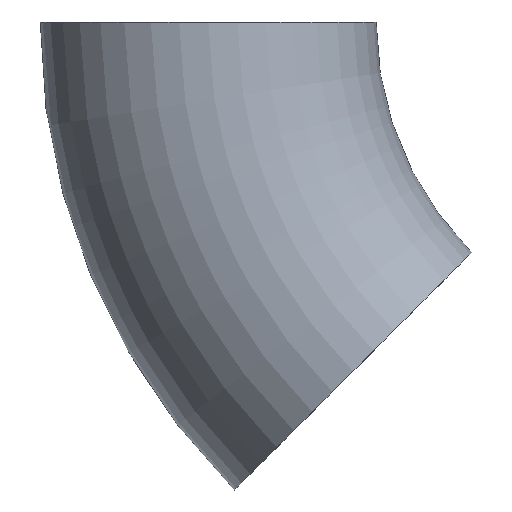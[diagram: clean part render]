
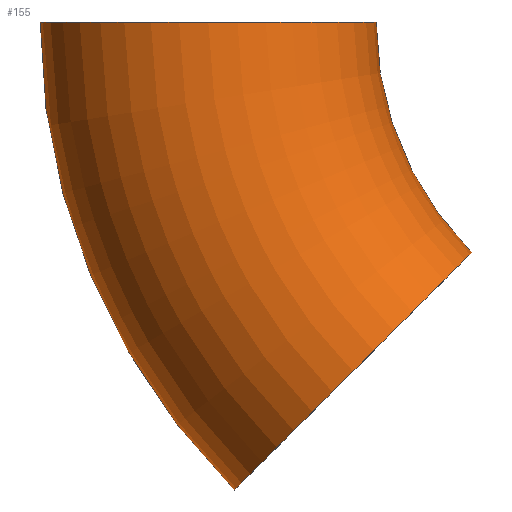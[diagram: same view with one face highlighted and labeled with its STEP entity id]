
A CAD part, front view. The second image highlights one B-rep face of the part: STEP entity #155.
In plain terms, the highlighted toroidal (fillet/blend) face has major radius 300 mm and minor radius 102 mm.
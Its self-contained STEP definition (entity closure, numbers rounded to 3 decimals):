
#1 = CARTESIAN_POINT ( 'NONE',  ( -284.257, 0., -284.257 ) ) ;
#7 = DIRECTION ( 'NONE',  ( 0., 1., 0. ) ) ;
#8 = AXIS2_PLACEMENT_3D ( 'NONE', #211, #95, #93 ) ;
#10 = VERTEX_POINT ( 'NONE', #212 ) ;
#13 = EDGE_CURVE ( 'NONE', #206, #39, #190, .T. ) ;
#22 = CARTESIAN_POINT ( 'NONE',  ( 0., 0., 0. ) ) ;
#24 = CARTESIAN_POINT ( 'NONE',  ( 0., 0., 0. ) ) ;
#26 = TOROIDAL_SURFACE ( 'NONE', #32, 300., 102. ) ;
#30 = VERTEX_POINT ( 'NONE', #1 ) ;
#32 = AXIS2_PLACEMENT_3D ( 'NONE', #22, #204, #99 ) ;
#39 = VERTEX_POINT ( 'NONE', #194 ) ;
#55 = DIRECTION ( 'NONE',  ( 0., 1., 0. ) ) ;
#60 = FACE_OUTER_BOUND ( 'NONE', #90, .T. ) ;
#63 = DIRECTION ( 'NONE',  ( 1., 0., 0. ) ) ;
#81 = AXIS2_PLACEMENT_3D ( 'NONE', #235, #55, #174 ) ;
#86 = CARTESIAN_POINT ( 'NONE',  ( -300., 0., 0. ) ) ;
#90 = EDGE_LOOP ( 'NONE', ( #106, #94, #96, #229 ) ) ;
#93 = DIRECTION ( 'NONE',  ( 0.707, 0., 0.707 ) ) ;
#94 = ORIENTED_EDGE ( 'NONE', *, *, #100, .T. ) ;
#95 = DIRECTION ( 'NONE',  ( -0.707, 0., 0.707 ) ) ;
#96 = ORIENTED_EDGE ( 'NONE', *, *, #13, .T. ) ;
#98 = DIRECTION ( 'NONE',  ( 0., 0., 1. ) ) ;
#99 = DIRECTION ( 'NONE',  ( 0., 0., 1. ) ) ;
#100 = EDGE_CURVE ( 'NONE', #30, #206, #185, .T. ) ;
#101 = DIRECTION ( 'NONE',  ( 0., 0., 1. ) ) ;
#106 = ORIENTED_EDGE ( 'NONE', *, *, #189, .F. ) ;
#149 = CIRCLE ( 'NONE', #241, 402. ) ;
#155 = ADVANCED_FACE ( 'NONE', ( #60 ), #26, .T. ) ;
#174 = DIRECTION ( 'NONE',  ( 0., 0., 1. ) ) ;
#175 = EDGE_CURVE ( 'NONE', #10, #39, #200, .T. ) ;
#185 = CIRCLE ( 'NONE', #8, 102. ) ;
#189 = EDGE_CURVE ( 'NONE', #30, #10, #149, .T. ) ;
#190 = CIRCLE ( 'NONE', #81, 198. ) ;
#194 = CARTESIAN_POINT ( 'NONE',  ( -198., 0., 0. ) ) ;
#200 = CIRCLE ( 'NONE', #233, 102. ) ;
#204 = DIRECTION ( 'NONE',  ( 0., 1., 0. ) ) ;
#206 = VERTEX_POINT ( 'NONE', #242 ) ;
#211 = CARTESIAN_POINT ( 'NONE',  ( -212.132, 0., -212.132 ) ) ;
#212 = CARTESIAN_POINT ( 'NONE',  ( -402., 0., 0. ) ) ;
#229 = ORIENTED_EDGE ( 'NONE', *, *, #175, .F. ) ;
#233 = AXIS2_PLACEMENT_3D ( 'NONE', #86, #101, #63 ) ;
#235 = CARTESIAN_POINT ( 'NONE',  ( 0., 0., 0. ) ) ;
#241 = AXIS2_PLACEMENT_3D ( 'NONE', #24, #7, #98 ) ;
#242 = CARTESIAN_POINT ( 'NONE',  ( -140.007, 0., -140.007 ) ) ;
